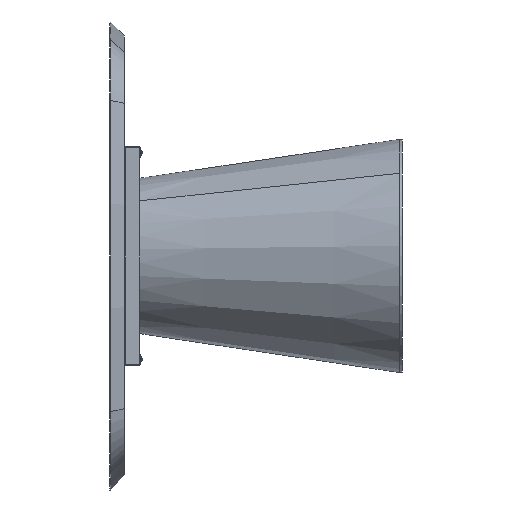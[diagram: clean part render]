
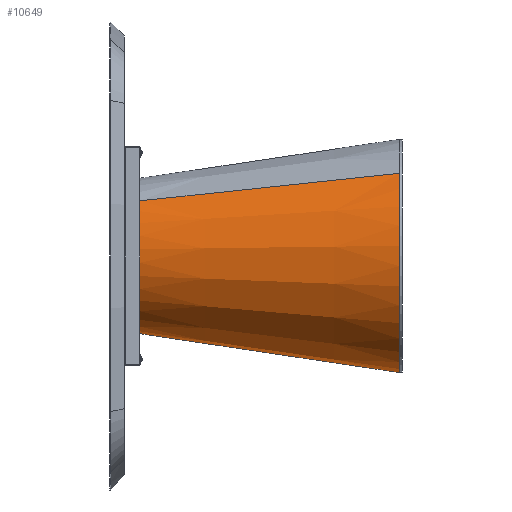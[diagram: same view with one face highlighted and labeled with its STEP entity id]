
A CAD part, left-side view. The second image highlights one B-rep face of the part: STEP entity #10649.
In plain terms, the highlighted conical face has half-angle 8.552 degrees and reference radius 200 mm.
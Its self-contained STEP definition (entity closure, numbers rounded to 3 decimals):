
#301 = AXIS2_PLACEMENT_3D ( 'NONE', #15018, #10087, #887 ) ;
#478 = EDGE_CURVE ( 'NONE', #14950, #7134, #2621, .T. ) ;
#776 = ORIENTED_EDGE ( 'NONE', *, *, #10880, .T. ) ;
#887 = DIRECTION ( 'NONE',  ( 0., 0., 1. ) ) ;
#1652 = EDGE_CURVE ( 'NONE', #14125, #7134, #6493, .T. ) ;
#2445 = AXIS2_PLACEMENT_3D ( 'NONE', #5368, #10063, #10982 ) ;
#2621 = LINE ( 'NONE', #9517, #12708 ) ;
#2709 = FACE_OUTER_BOUND ( 'NONE', #9144, .T. ) ;
#3004 = DIRECTION ( 'NONE',  ( 0., 0., 1. ) ) ;
#3307 = EDGE_CURVE ( 'NONE', #5291, #14950, #9230, .T. ) ;
#4708 = CARTESIAN_POINT ( 'NONE',  ( 0., 673., -200. ) ) ;
#5291 = VERTEX_POINT ( 'NONE', #4708 ) ;
#5368 = CARTESIAN_POINT ( 'NONE',  ( 0., 673., 0. ) ) ;
#5387 = ORIENTED_EDGE ( 'NONE', *, *, #478, .F. ) ;
#5588 = CARTESIAN_POINT ( 'NONE',  ( 0., 8., -300. ) ) ;
#6237 = ORIENTED_EDGE ( 'NONE', *, *, #3307, .F. ) ;
#6493 = CIRCLE ( 'NONE', #301, 300. ) ;
#6932 = CARTESIAN_POINT ( 'NONE',  ( 0., 673., 200. ) ) ;
#7134 = VERTEX_POINT ( 'NONE', #7237 ) ;
#7237 = CARTESIAN_POINT ( 'NONE',  ( 0., 8., 300. ) ) ;
#7431 = DIRECTION ( 'NONE',  ( 0., 1., 0. ) ) ;
#7836 = DIRECTION ( 'NONE',  ( 0., -0.989, -0.149 ) ) ;
#8365 = DIRECTION ( 'NONE',  ( 0., -0.989, 0.149 ) ) ;
#8633 = ORIENTED_EDGE ( 'NONE', *, *, #1652, .T. ) ;
#9112 = CONICAL_SURFACE ( 'NONE', #2445, 200., 0.149 ) ;
#9144 = EDGE_LOOP ( 'NONE', ( #5387, #6237, #776, #8633 ) ) ;
#9230 = CIRCLE ( 'NONE', #11690, 200. ) ;
#9517 = CARTESIAN_POINT ( 'NONE',  ( 0., 673., 200. ) ) ;
#10063 = DIRECTION ( 'NONE',  ( 0., -1., 0. ) ) ;
#10087 = DIRECTION ( 'NONE',  ( 0., 1., 0. ) ) ;
#10138 = LINE ( 'NONE', #13685, #13552 ) ;
#10649 = ADVANCED_FACE ( 'NONE', ( #2709 ), #9112, .T. ) ;
#10880 = EDGE_CURVE ( 'NONE', #5291, #14125, #10138, .T. ) ;
#10982 = DIRECTION ( 'NONE',  ( 0., 0., -1. ) ) ;
#11690 = AXIS2_PLACEMENT_3D ( 'NONE', #12272, #7431, #3004 ) ;
#12272 = CARTESIAN_POINT ( 'NONE',  ( 0., 673., 0. ) ) ;
#12708 = VECTOR ( 'NONE', #8365, 1000. ) ;
#13552 = VECTOR ( 'NONE', #7836, 1000. ) ;
#13685 = CARTESIAN_POINT ( 'NONE',  ( 0., 673., -200. ) ) ;
#14125 = VERTEX_POINT ( 'NONE', #5588 ) ;
#14950 = VERTEX_POINT ( 'NONE', #6932 ) ;
#15018 = CARTESIAN_POINT ( 'NONE',  ( 0., 8., 0. ) ) ;
